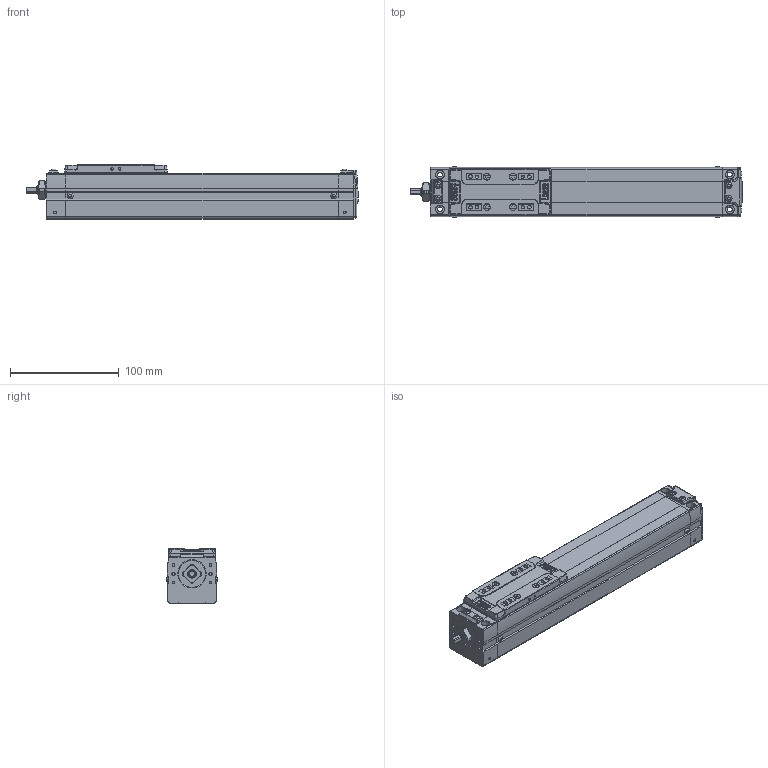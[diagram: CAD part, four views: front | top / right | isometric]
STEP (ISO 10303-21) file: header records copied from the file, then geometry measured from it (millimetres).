
FILE_DESCRIPTION(('STEP AP214'),'1');
FILE_NAME('Z:/Web/3D/SAN45/STP/SAN45ㅁㅁ-150.stp','2012-06-15T04:13:43',(' '),(' '),'Spatial InterOp 3D',' ',' ');
FILE_SCHEMA(('automotive_design'));
Length unit declared in the file: metre
Products named in the file (27): SAN45__-150; BODY-SAN45; REAR-SAN45; RRCV-SAN45; BHCS M3 x 6L; BHCS M3 X 6L; FRONT-SAN45; SHAFT; RN8 x 0.75; SSFX-SAN45; SLIDE-SAN45; SLCV-IM45; FHCS M3 x 6L
Assembly tree (26 placements, depth 3):
  SAN45__-150
    BODY-SAN45
    REAR-SAN45
      REAR-SAN45
      RRCV-SAN45
      BHCS M3 x 6L
      BHCS M3 X 6L
      BHCS M3 x 6L
      BHCS M3 x 6L
      BHCS M3 x 6L
      BHCS M3 x 6L
    FRONT-SAN45
      FRONT-SAN45
      SHAFT
      RN8 x 0.75
      SSFX-SAN45
      BHCS M3 x 6L
      BHCS M3 x 6L
      BHCS M3 x 6L
      BHCS M3 x 6L
    SLIDE-SAN45
      SLIDE-SAN45
      SLCV-IM45
      FHCS M3 x 6L
      FHCS M3 x 6L
      FHCS M3 x 6L
      FHCS M3 x 6L
Bounding box: 304.65 x 47.13 x 50 mm (x, y, z)
Volume: 533944.4 mm3; surface area: 97270.4 mm2
Topology: 23 solids, 23 shells, 1359 faces, 3493 edges, 2270 vertices
Faces by surface type: plane 838, cylinder 387, cone 62, bspline 38, sphere 22, torus 9, extrusion 3
Full cylindrical faces by diameter (mm): 0.376 x2, 0.47 x1, 1.137 x2, 1.421 x1, 1.665 x4, 2.081 x2, 2.2 x4, 2.5 x13, 3 x6, 3.193 x4, 3.3 x4, 3.4 x4, 3.5 x6, 3.991 x2, 4.2 x6, 4.5 x4, 5 x3, 6 x6, 7 x1, 8 x8, 13 x1, 15 x1, 19 x1
Entity records: 55227 total; most frequent: CARTESIAN_POINT 10929, DIRECTION 6853, ORIENTED_EDGE 6570, EDGE_CURVE 3285, AXIS2_PLACEMENT_3D 2295, VECTOR 2263, LINE 2260, VERTEX_POINT 2227
